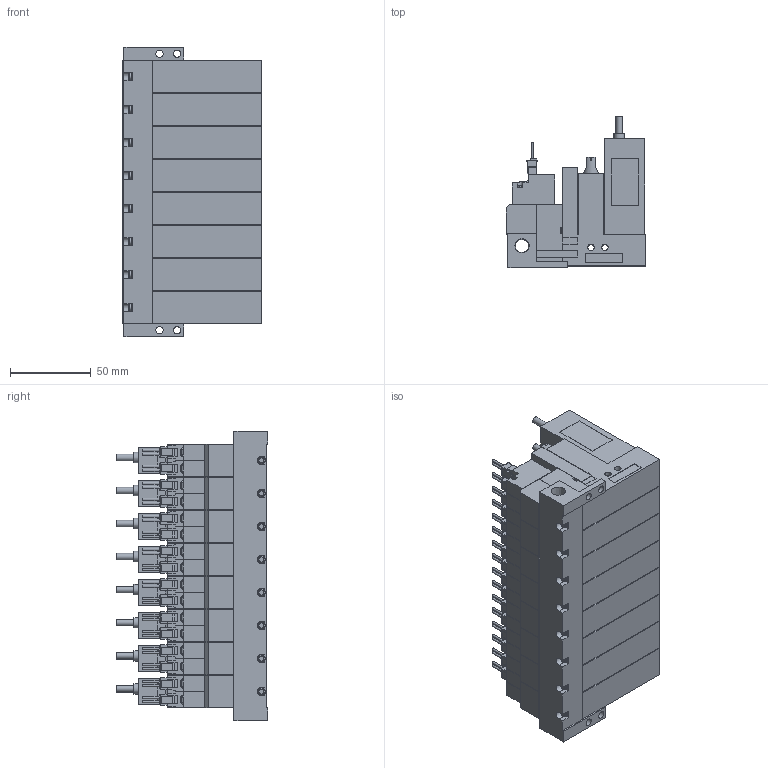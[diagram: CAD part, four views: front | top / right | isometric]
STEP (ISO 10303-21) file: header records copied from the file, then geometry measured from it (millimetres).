
FILE_DESCRIPTION(('STEP AP203'),'1');
FILE_NAME('VG_VGPL5BLR808.stp','2025-02-25T05:18:17',(' '),(' '),'Spatial InterOp 3D',' ',' ');
FILE_SCHEMA(('CONFIG_CONTROL_DESIGN'));
Length unit declared in the file: millimetre
Products named in the file (5): BMC22M※※※※VG_VGPL5BLR808; Solenoid valve B; Pressure sensor VGL; Unit L; Base MR80R
Assembly tree (25 placements, depth 2):
  BMC22M※※※※VG_VGPL5BLR808
    Solenoid valve B  x8
    Pressure sensor VGL  x8
    Unit L  x8
    Base MR80R
Bounding box: 86.6 x 94 x 179.5 mm (x, y, z)
Volume: 792352.3 mm3; surface area: 212485.6 mm2
Topology: 25 solids, 25 shells, 2861 faces, 7659 edges, 5072 vertices
Faces by surface type: plane 2414, cylinder 365, cone 58, torus 24
Full cylindrical faces by diameter (mm): 1.4 x32, 2.5 x24, 3 x32, 3.5 x32, 3.6 x8, 4 x48, 4.134 x8, 4.5 x4, 5.2 x8, 6 x8, 6.5 x8, 6.6 x8, 8.279 x1
Entity records: 15036 total; most frequent: CARTESIAN_POINT 2918, DIRECTION 2414, ORIENTED_EDGE 2276, EDGE_CURVE 1138, LINE 880, VECTOR 880, VERTEX_POINT 811, AXIS2_PLACEMENT_3D 767
